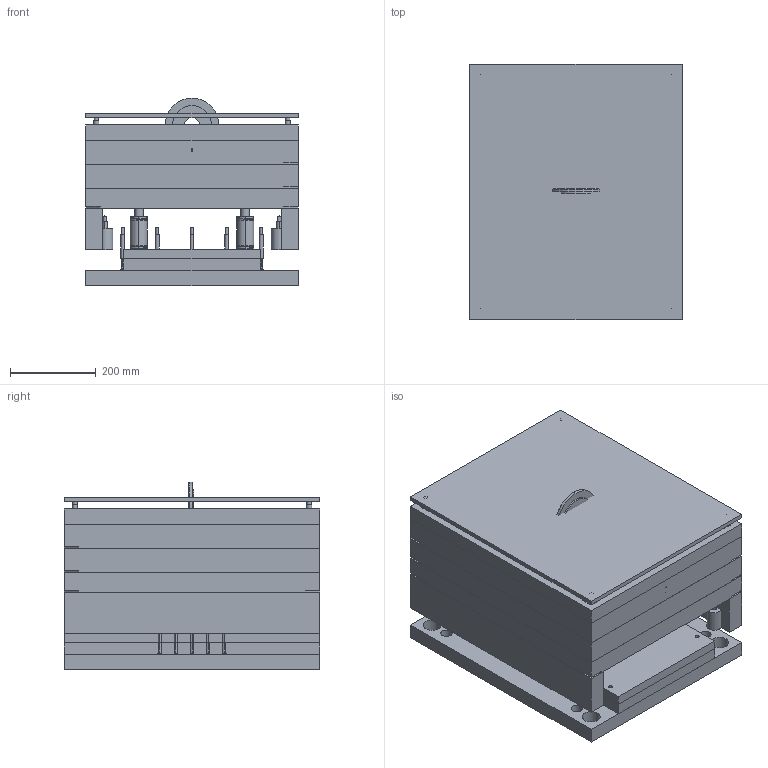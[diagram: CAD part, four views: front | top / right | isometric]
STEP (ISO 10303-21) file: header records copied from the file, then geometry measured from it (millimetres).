
FILE_DESCRIPTION(('Open CASCADE Model'),'2;1');
FILE_NAME('Open CASCADE Shape Model','2026-07-15T09:16:06',('Author'),( 'Open CASCADE'),'Open CASCADE STEP processor 7.9','Open CASCADE 7.9' ,'Unknown');
FILE_SCHEMA(('AUTOMOTIVE_DESIGN { 1 0 10303 214 1 1 1 1 }'));
Length unit declared in the file: millimetre
Products named in the file (131): mold_builder_assembly; Fixed_Half; cavity_plate; clamp_fixed; guide_pin_0; guide_pin_1; guide_pin_2; guide_pin_3; guide_bushing_0; guide_bushing_1; guide_bushing_2; guide_bushing_3; screw_top_0; screw_top_1; screw_top_2; screw_top_3; dowel_pin_0; dowel_pin_1; insulation_plate; sprue_bushing; locating_ring; gate_0; slide_1_K2528; Moving_Half; clamp_moving; support_plate; core_plate; spacer_block; support_pillar_0; support_pillar_1; support_pillar_2; support_pillar_3; screw_bot_0; screw_bot_1; screw_bot_2; screw_bot_3; cooling_channel_0; cooling_channel_1; cooling_channel_2; cooling_channel_3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
Assembly tree (130 placements, depth 3):
  mold_builder_assembly
    Fixed_Half
      cavity_plate
      clamp_fixed
      guide_pin_0
      guide_pin_1
      guide_pin_2
      guide_pin_3
      guide_bushing_0
      guide_bushing_1
      guide_bushing_2
      guide_bushing_3
      screw_top_0
      screw_top_1
      screw_top_2
      screw_top_3
      dowel_pin_0
      dowel_pin_1
      insulation_plate
      sprue_bushing
      locating_ring
      gate_0
      slide_1_K2528
    Moving_Half
      clamp_moving
      support_plate
      core_plate
      spacer_block
      support_pillar_0
      support_pillar_1
      support_pillar_2
      support_pillar_3
      screw_bot_0
      screw_bot_1
      screw_bot_2
      screw_bot_3
      cooling_channel_0
      cooling_channel_1
      cooling_channel_2
      cooling_channel_3
      cooling_channel_4
      cooling_channel_5
      cooling_channel_6
      cooling_channel_7
      cooling_channel_8
      cooling_channel_9
      cooling_channel_10
      cooling_channel_11
      cooling_channel_12
      cooling_channel_13
      cooling_channel_14
      cooling_channel_15
      cooling_channel_16
      cooling_channel_17
      cooling_channel_18
      cooling_channel_19
      cooling_channel_20
      cooling_channel_21
      cooling_channel_22
      cooling_channel_23
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Bounding box: 496 x 596 x 437.5 mm (x, y, z)
Volume: 85389748.5 mm3; surface area: 6552927 mm2
Topology: 209 solids, 210 shells, 4071 faces, 9401 edges, 5884 vertices
Faces by surface type: plane 1428, bspline 978, cylinder 813, cone 483, torus 325, sphere 44
Full cylindrical faces by diameter (mm): 4 x5, 6 x55, 8.5 x4, 9.728 x2, 10.2 x8, 11.4 x2, 11.98 x8, 12 x18, 13.5 x8, 14 x8, 15 x2, 16 x2, 16.6 x4, 18 x20, 20 x12, 20.1 x12, 24.1 x4, 26 x8, 28 x10, 42 x4, 48 x4, 90 x1, 125 x1
Entity records: 475206 total; most frequent: CARTESIAN_POINT 301661, DIRECTION 26653, ORIENTED_EDGE 18610, PCURVE 18610, DEFINITIONAL_REPRESENTATION 18610, LINE 13541, VECTOR 13541, B_SPLINE_CURVE_WITH_KNOTS 9868
